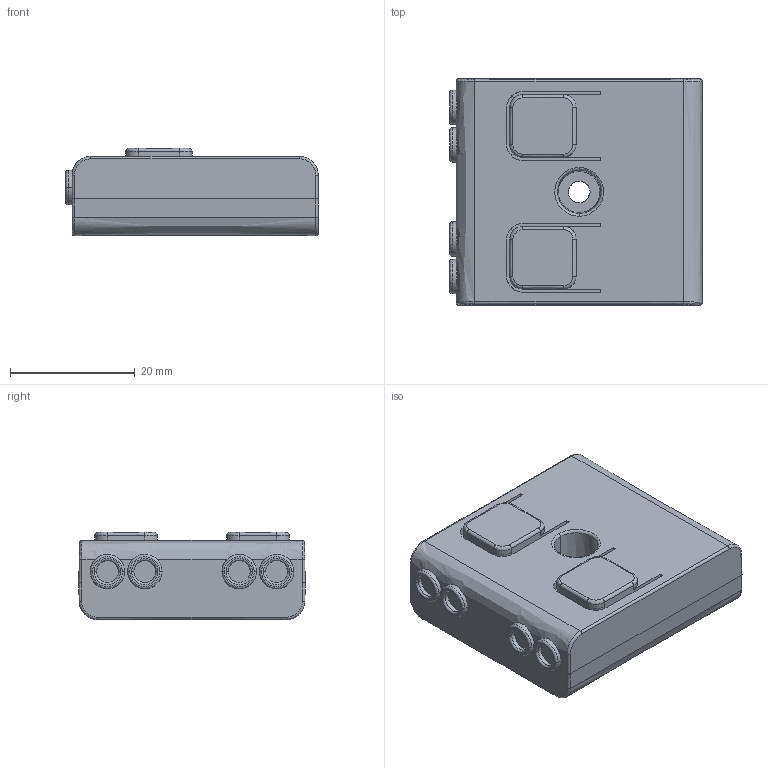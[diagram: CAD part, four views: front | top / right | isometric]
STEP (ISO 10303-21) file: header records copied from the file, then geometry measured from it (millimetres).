
FILE_DESCRIPTION((''),'2;1');
FILE_NAME('15012776Z_DATA40-4X36-3X14_22AD','2018-08-03T11:16:41',('Emanuel.Wild'),(''),'CREO PARAMETRIC BY PTC INC, 2017380','CREO PARAMETRIC BY PTC INC, 2017380','');
FILE_SCHEMA(('AUTOMOTIVE_DESIGN { 1 0 10303 214 1 1 1 1 }'));
Length unit declared in the file: millimetre
Products named in the file (1): 15012776Z_DATA40-4X36-3X14_22AD
Bounding box: 40.4 x 36.25 x 14 mm (x, y, z)
Volume: 17363.4 mm3; surface area: 5202.9 mm2
Topology: 1 solids, 1 shells, 148 faces, 357 edges, 220 vertices
Faces by surface type: bspline 99, plane 49
Entity records: 9425 total; most frequent: CARTESIAN_POINT 6303, ORIENTED_EDGE 714, EDGE_CURVE 357, DIRECTION 277, VERTEX_POINT 220, VECTOR 179, LINE 179, B_SPLINE_CURVE_WITH_KNOTS 178
